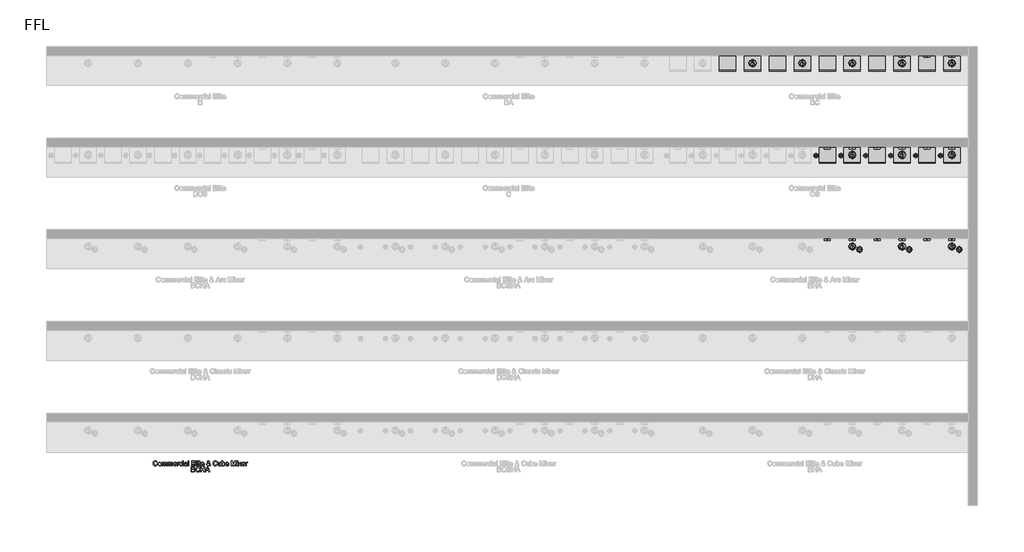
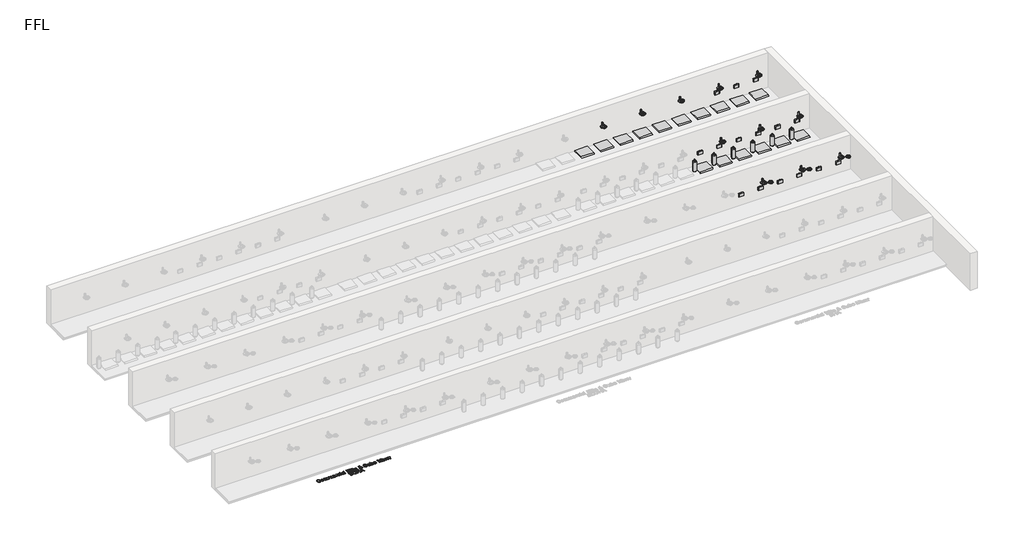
# One storey, part 3 of 13: 51 flow terminals, 1 proxy.
"""IFC4 building model written with IfcOpenShell, lengths in millimetres."""

from ifc_helpers import new_model, si_unit, origin, origin_with_axes, place, context, project, spatial, polyline, outline, extrude, transform, mapped, element, save
from components import flow_terminal_100_people_nickel_19c471c0, flow_terminal_100_people_matte_black_0dc622b1, bcs_and_bc_6de74493, bright_chrome_743c02cf, brushed_chrome_13082571, co2_gas_cylinder_20234e14

model = new_model("IFC4")

# Units and contexts
model_context = context("Model", 3, world=origin())
ifc_project = project(units=[si_unit("LENGTHUNIT", "METRE", prefix="MILLI")], contexts=[model_context])

# Site, building, storey
site = spatial("IfcSite", under=ifc_project)
building = spatial("IfcBuilding", under=site)
storey = spatial("IfcBuildingStorey", under=building, Name="FFL", Elevation=0.0)

# Proxy
placement = place(None, origin())
element("IfcBuildingElementProxy", 1, Name="150mm Arial", ObjectType="150mm Arial", at=placement, inside=storey, context=model_context, shape_type="SweptSolid", body=[
    extrude(outline(polyline([(-3648.5814467, -4463.6981691), (-3630.1199083, -4468.4577845), (-3638.6385381, -4489.9707052), (-3652.0069275, -4505.6873518), (-3669.5670236, -4515.301234), (-3690.6607736, -4518.5058614), (-3712.0745357, -4516.0809816), (-3729.0802448, -4508.8063422), (-3742.1151006, -4496.934347), (-3751.6163025, -4480.7173999), (-3757.4170837, -4461.6518951), (-3759.3506775, -4441.2342268), (-3757.1646799, -4419.6987701), (-3750.6066871, -4401.1020153), (-3740.0192472, -4386.0344071), (-3725.7449083, -4375.0863903), (-3708.8158217, -4368.4202244), (-3690.264139, -4366.1981691), (-3670.022252, -4369.0737701), (-3653.2869756, -4377.700573), (-3640.5811462, -4391.5467268), (-3632.4276006, -4410.0803807), (-3650.889139, -4414.4794191), (-3657.2893794, -4401.0163783), (-3666.0333698, -4391.7811018), (-3677.2292833, -4386.4400561), (-3690.9852929, -4384.6597076), (-3706.8416631, -4386.6338662), (-3719.8675044, -4392.5563422), (-3729.7518193, -4401.8051403), (-3736.1836102, -4413.7582653), (-3740.889139, -4441.1981691), (-3735.3182256, -4473.0010537), (-3728.1968313, -4484.8775561), (-3717.9744756, -4493.3195633), (-3705.7193674, -4498.3631331), (-3692.4997159, -4500.044323), (-3677.0895597, -4497.7546595), (-3664.248514, -4490.8856691), (-3654.553502, -4479.5094672), (-3648.5814467, -4463.6981691)])), origin_with_axes(), (0.0, 0.0, 1.0), 5.0),
    extrude(outline(polyline([(-3611.6583698, -4461.9673999), (-3607.6649804, -4435.8165585), (-3595.6848121, -4417.4361499), (-3580.8831294, -4408.4307412), (-3563.1607736, -4405.4289383), (-3543.7662424, -4409.0842869), (-3528.2749563, -4420.0503326), (-3518.1202087, -4437.4616908), (-3514.7352929, -4460.4529768), (-3516.2316871, -4479.1038182), (-3520.7208698, -4493.3015345), (-3528.0721318, -4503.9340465), (-3538.154764, -4511.8892749), (-3550.1304251, -4516.8517148), (-3563.1607736, -4518.5058614), (-3582.7896799, -4514.8640345), (-3598.2629371, -4503.9385537), (-3608.3095116, -4486.1621114), (-3611.6583698, -4461.9673999)]), holes=[polyline([(-3593.1968313, -4461.9313422), (-3591.0604131, -4478.6395754), (-3584.6511583, -4490.543121), (-3575.0057256, -4497.6690225), (-3563.1607736, -4500.044323), (-3551.3699083, -4497.6555008), (-3541.7425044, -4490.4890345), (-3535.3332496, -4478.4277364), (-3533.1968313, -4461.3544191), (-3535.3467712, -4445.1329648), (-3541.7965909, -4433.3916787), (-3551.4375164, -4426.2657773), (-3563.1607736, -4423.8904768), (-3575.0057256, -4426.2567629), (-3584.6511583, -4433.355621), (-3591.0604131, -4445.2321234), (-3593.1968313, -4461.9313422)])]), origin_with_axes(), (0.0, 0.0, 1.0), 5.0),
    extrude(outline(polyline([(-3493.9660621, -4516.1981691), (-3493.9660621, -4407.7366307), (-3475.5045236, -4407.7366307), (-3475.5045236, -4425.5851883), (-3462.8122159, -4410.9637941), (-3444.7473121, -4405.4289383), (-3434.4798842, -4406.8396956), (-3426.2497159, -4411.0719672), (-3416.0814467, -4426.8832653), (-3401.6763986, -4410.7925201), (-3383.4852929, -4405.4289383), (-3369.6075885, -4407.6600081), (-3359.3446679, -4414.3532172), (-3353.0030212, -4425.6888542), (-3350.889139, -4441.8472076), (-3350.889139, -4516.1981691), (-3369.3506775, -4516.1981691), (-3369.3506775, -4449.7798999), (-3371.0634179, -4434.3652364), (-3377.2653409, -4426.7750922), (-3387.8122159, -4423.8904768), (-3397.8137184, -4425.7384335), (-3405.967264, -4431.2823037), (-3411.3894395, -4440.9006932), (-3413.1968313, -4454.9722076), (-3413.1968313, -4516.1981691), (-3431.6583698, -4516.1981691), (-3431.6583698, -4447.7246114), (-3435.9312063, -4429.839996), (-3441.569728, -4425.3778566), (-3449.9396198, -4423.8904768), (-3463.6054852, -4427.856823), (-3472.6920236, -4439.4673999), (-3475.5045236, -4461.4986499), (-3475.5045236, -4516.1981691), (-3493.9660621, -4516.1981691)])), origin_with_axes(), (0.0, 0.0, 1.0), 5.0),
    extrude(outline(polyline([(-3323.1968313, -4516.1981691), (-3323.1968313, -4407.7366307), (-3304.7352929, -4407.7366307), (-3304.7352929, -4425.5851883), (-3292.0429852, -4410.9637941), (-3273.9780813, -4405.4289383), (-3263.7106534, -4406.8396956), (-3255.4804852, -4411.0719672), (-3245.3122159, -4426.8832653), (-3230.9071679, -4410.7925201), (-3212.7160621, -4405.4289383), (-3198.8383578, -4407.6600081), (-3188.5754371, -4414.3532172), (-3182.2337905, -4425.6888542), (-3180.1199083, -4441.8472076), (-3180.1199083, -4516.1981691), (-3198.5814467, -4516.1981691), (-3198.5814467, -4449.7798999), (-3200.2941871, -4434.3652364), (-3206.4961102, -4426.7750922), (-3217.0429852, -4423.8904768), (-3227.0444876, -4425.7384335), (-3235.1980333, -4431.2823037), (-3240.6202087, -4440.9006932), (-3242.4276006, -4454.9722076), (-3242.4276006, -4516.1981691), (-3260.889139, -4516.1981691), (-3260.889139, -4447.7246114), (-3265.1619756, -4429.839996), (-3270.8004972, -4425.3778566), (-3279.170389, -4423.8904768), (-3292.8362544, -4427.856823), (-3301.9227929, -4439.4673999), (-3304.7352929, -4461.4986499), (-3304.7352929, -4516.1981691), (-3323.1968313, -4516.1981691)])), origin_with_axes(), (0.0, 0.0, 1.0), 5.0),
    extrude(outline(polyline([(-3076.4901006, -4483.8904768), (-3058.389139, -4486.1981691), (-3064.9110741, -4499.8369912), (-3075.3182256, -4510.0323037), (-3089.3762184, -4516.387472), (-3106.8506775, -4518.5058614), (-3128.5123361, -4514.8505129), (-3145.1800044, -4503.8844672), (-3155.8080092, -4486.3198638), (-3159.3506775, -4462.8688422), (-3155.7719515, -4438.6290585), (-3145.0357736, -4420.5010537), (-3128.5934659, -4409.1969672), (-3107.8963506, -4405.4289383), (-3087.8437664, -4409.1879528), (-3071.8206294, -4420.464996), (-3061.3143193, -4438.5569432), (-3057.8122159, -4462.7606691), (-3057.920389, -4467.7366307), (-3140.889139, -4467.7366307), (-3137.693526, -4481.5557412), (-3130.2701486, -4491.714996), (-3119.5565068, -4497.9619912), (-3106.4901006, -4500.044323), (-3088.389139, -4496.1861499), (-3076.4901006, -4483.8904768)]), holes=[polyline([(-3140.889139, -4449.2750922), (-3076.2737544, -4449.2750922), (-3078.7707496, -4439.5214864), (-3083.6655813, -4432.544323), (-3094.4288025, -4426.0539383), (-3107.9684659, -4423.8904768), (-3120.412877, -4425.6167388), (-3130.7028409, -4430.7955249), (-3137.8557857, -4438.8679408), (-3140.889139, -4449.2750922)])]), origin_with_axes(), (0.0, 0.0, 1.0), 5.0),
    extrude(outline(polyline([(-3039.3506775, -4516.1981691), (-3039.3506775, -4407.7366307), (-3023.1968313, -4407.7366307), (-3023.1968313, -4423.7823037), (-3011.7304852, -4408.9986499), (-3000.1920236, -4405.4289383), (-2981.6583698, -4411.1260537), (-2987.8242352, -4427.6765345), (-3000.8050044, -4423.8904768), (-3011.2437063, -4427.5323037), (-3017.8963506, -4437.6284576), (-3020.889139, -4459.1909576), (-3020.889139, -4516.1981691), (-3039.3506775, -4516.1981691)])), origin_with_axes(), (0.0, 0.0, 1.0), 5.0),
    extrude(outline(polyline([(-2900.889139, -4476.9673999), (-2882.4276006, -4479.2750922), (-2887.5748361, -4495.6948638), (-2897.2473121, -4508.1032172), (-2910.5345717, -4515.9052004), (-2926.5261583, -4518.5058614), (-2946.1640789, -4514.8775561), (-2961.5201486, -4503.9926403), (-2971.4315068, -4486.3288783), (-2974.7352929, -4462.3640345), (-2969.092264, -4431.6969672), (-2961.9708698, -4420.1990706), (-2951.8927448, -4411.9914383), (-2939.8359539, -4407.0695633), (-2926.7785621, -4405.4289383), (-2911.179103, -4407.6825441), (-2898.7076486, -4414.4433614), (-2889.7608337, -4425.3508133), (-2884.7352929, -4440.044323), (-2903.1968313, -4442.3520153), (-2911.7605333, -4428.5238903), (-2926.6343313, -4423.8904768), (-2938.5649203, -4426.1711258), (-2948.0345717, -4433.013073), (-2954.2139587, -4444.7859095), (-2956.2737544, -4461.8592268), (-2954.2590309, -4479.1624119), (-2948.2148602, -4490.9758133), (-2938.9164828, -4497.7771956), (-2927.139139, -4500.044323), (-2917.5793434, -4498.6290585), (-2909.7413025, -4494.3832653), (-2904.0396799, -4487.1987701), (-2900.889139, -4476.9673999)])), origin_with_axes(), (0.0, 0.0, 1.0), 5.0),
    extrude(outline(polyline([(-2866.2737544, -4386.9673999), (-2866.2737544, -4368.5058614), (-2847.8122159, -4368.5058614), (-2847.8122159, -4386.9673999), (-2866.2737544, -4386.9673999)])), origin_with_axes(), (0.0, 0.0, 1.0), 5.0),
    extrude(outline(polyline([(-2866.2737544, -4516.1981691), (-2866.2737544, -4407.7366307), (-2847.8122159, -4407.7366307), (-2847.8122159, -4516.1981691), (-2866.2737544, -4516.1981691)])), origin_with_axes(), (0.0, 0.0, 1.0), 5.0),
    extrude(outline(polyline([(-2750.889139, -4502.3520153), (-2768.7917833, -4514.8640345), (-2788.5694275, -4518.5058614), (-2803.9976126, -4516.3153566), (-2815.3783217, -4509.7438422), (-2822.3960501, -4499.7648758), (-2824.7352929, -4487.3520153), (-2821.201639, -4472.7486499), (-2811.9167833, -4462.1476883), (-2798.9901006, -4456.089996), (-2783.0165429, -4453.3135537), (-2750.9973121, -4446.9673999), (-2750.889139, -4442.856823), (-2752.1601727, -4434.6176403), (-2755.9732736, -4429.2270153), (-2764.5009179, -4425.2246114), (-2776.3819275, -4423.8904768), (-2795.0598121, -4427.4421595), (-2803.9660621, -4440.044323), (-2822.4276006, -4437.7366307), (-2814.4408217, -4419.7077845), (-2798.3590909, -4409.1428807), (-2774.0021198, -4405.4289383), (-2751.6283217, -4408.7101883), (-2738.9901006, -4416.949371), (-2733.3290429, -4429.4794191), (-2732.4276006, -4445.6332653), (-2732.4276006, -4468.6020153), (-2731.4901006, -4500.6753326), (-2727.8122159, -4516.1981691), (-2746.2737544, -4516.1981691), (-2750.889139, -4502.3520153)]), holes=[polyline([(-2750.889139, -4465.4289383), (-2780.6727929, -4471.089996), (-2796.5562063, -4474.0827845), (-2803.7497159, -4478.950573), (-2806.2737544, -4486.0539383), (-2800.7749563, -4496.0419191), (-2784.639139, -4500.044323), (-2765.9612544, -4495.6272557), (-2753.9179852, -4484.9361499), (-2750.9973121, -4470.6573037), (-2750.889139, -4465.4289383)])]), origin_with_axes(), (0.0, 0.0, 1.0), 5.0),
    extrude(outline(polyline([(-2707.0429852, -4516.1981691), (-2707.0429852, -4368.5058614), (-2688.5814467, -4368.5058614), (-2688.5814467, -4516.1981691), (-2707.0429852, -4516.1981691)])), origin_with_axes(), (0.0, 0.0, 1.0), 5.0),
    extrude(outline(polyline([(-2600.889139, -4516.1981691), (-2600.889139, -4368.5058614), (-2494.7352929, -4368.5058614), (-2494.7352929, -4386.9673999), (-2582.4276006, -4386.9673999), (-2582.4276006, -4430.8135537), (-2499.3506775, -4430.8135537), (-2499.3506775, -4449.2750922), (-2582.4276006, -4449.2750922), (-2582.4276006, -4497.7366307), (-2492.4276006, -4497.7366307), (-2492.4276006, -4516.1981691), (-2600.889139, -4516.1981691)])), origin_with_axes(), (0.0, 0.0, 1.0), 5.0),
    extrude(outline(polyline([(-2467.0429852, -4516.1981691), (-2467.0429852, -4368.5058614), (-2448.5814467, -4368.5058614), (-2448.5814467, -4516.1981691), (-2467.0429852, -4516.1981691)])), origin_with_axes(), (0.0, 0.0, 1.0), 5.0),
    extrude(outline(polyline([(-2420.889139, -4516.1981691), (-2420.889139, -4407.7366307), (-2402.4276006, -4407.7366307), (-2402.4276006, -4516.1981691), (-2420.889139, -4516.1981691)])), origin_with_axes(), (0.0, 0.0, 1.0), 5.0),
    extrude(outline(polyline([(-2420.889139, -4386.9673999), (-2420.889139, -4368.5058614), (-2402.4276006, -4368.5058614), (-2402.4276006, -4386.9673999), (-2420.889139, -4386.9673999)])), origin_with_axes(), (0.0, 0.0, 1.0), 5.0),
    extrude(outline(polyline([(-2335.5045236, -4500.8015345), (-2333.1968313, -4516.7390345), (-2347.0069275, -4518.5058614), (-2362.4756775, -4515.4409576), (-2370.1920236, -4507.4000922), (-2372.4276006, -4486.450573), (-2372.4276006, -4426.1981691), (-2386.2737544, -4426.1981691), (-2386.2737544, -4407.7366307), (-2372.4276006, -4407.7366307), (-2372.4276006, -4381.3784576), (-2353.9660621, -4370.5250922), (-2353.9660621, -4407.7366307), (-2335.5045236, -4407.7366307), (-2335.5045236, -4426.1981691), (-2353.9660621, -4426.1981691), (-2353.9660621, -4485.9097076), (-2352.9925044, -4495.4289383), (-2349.8374563, -4498.8003326), (-2343.545389, -4500.044323), (-2335.5045236, -4500.8015345)])), origin_with_axes(), (0.0, 0.0, 1.0), 5.0),
    extrude(outline(polyline([(-2241.1054852, -4483.8904768), (-2223.0045236, -4486.1981691), (-2229.5264587, -4499.8369912), (-2239.9336102, -4510.0323037), (-2253.991603, -4516.387472), (-2271.4660621, -4518.5058614), (-2293.1277208, -4514.8505129), (-2309.795389, -4503.8844672), (-2320.4233938, -4486.3198638), (-2323.9660621, -4462.8688422), (-2320.3873361, -4438.6290585), (-2309.6511583, -4420.5010537), (-2293.2088506, -4409.1969672), (-2272.5117352, -4405.4289383), (-2252.459151, -4409.1879528), (-2236.436014, -4420.464996), (-2225.9297039, -4438.5569432), (-2222.4276006, -4462.7606691), (-2222.5357736, -4467.7366307), (-2305.5045236, -4467.7366307), (-2302.3089107, -4481.5557412), (-2294.8855333, -4491.714996), (-2284.1718914, -4497.9619912), (-2271.1054852, -4500.044323), (-2253.0045236, -4496.1861499), (-2241.1054852, -4483.8904768)]), holes=[polyline([(-2305.5045236, -4449.2750922), (-2240.889139, -4449.2750922), (-2243.3861342, -4439.5214864), (-2248.2809659, -4432.544323), (-2259.0441871, -4426.0539383), (-2272.5838506, -4423.8904768), (-2285.0282616, -4425.6167388), (-2295.3182256, -4430.7955249), (-2302.4711703, -4438.8679408), (-2305.5045236, -4449.2750922)])]), origin_with_axes(), (0.0, 0.0, 1.0), 5.0),
    extrude(outline(polyline([(-2061.5742352, -4497.9529768), (-2081.1535621, -4513.3676403), (-2104.0501967, -4518.5058614), (-2124.4227929, -4514.7017749), (-2140.107889, -4503.2895153), (-2148.1938265, -4490.1555008), (-2150.889139, -4475.5611499), (-2148.7211703, -4462.6254528), (-2142.217264, -4451.0058614), (-2131.4044635, -4440.7113903), (-2116.3098121, -4431.7510537), (-2129.2004371, -4413.0731691), (-2132.4276006, -4399.2270153), (-2129.8855333, -4386.7600682), (-2122.2593313, -4376.0419191), (-2110.7839708, -4368.6591066), (-2096.6944275, -4366.1981691), (-2083.2899804, -4368.5509335), (-2072.5718313, -4375.6092268), (-2065.5405813, -4385.9667989), (-2063.1968313, -4398.2173999), (-2064.9321078, -4408.5028566), (-2070.1379371, -4418.013073), (-2090.9612544, -4434.7077845), (-2064.2425044, -4467.9890345), (-2056.2737544, -4447.544323), (-2037.8122159, -4451.5467268), (-2050.8651006, -4481.9433614), (-2028.5814467, -4504.2991307), (-2042.4276006, -4518.5058614), (-2061.5742352, -4497.9529768)]), holes=[polyline([(-2100.3001967, -4423.0611499), (-2085.1199083, -4411.6128326), (-2081.6583698, -4400.7414383), (-2086.2196679, -4389.1488903), (-2097.6319275, -4384.6597076), (-2109.2965909, -4389.1128326), (-2113.9660621, -4399.9842268), (-2112.3795236, -4406.7450441), (-2107.5838506, -4414.263073), (-2100.3001967, -4423.0611499)]), polyline([(-2073.9420236, -4484.6476883), (-2106.8987544, -4443.5058614), (-2127.1812063, -4458.9746114), (-2132.4276006, -4473.1092268), (-2130.6337304, -4481.8171595), (-2125.2521198, -4490.8496114), (-2116.5802448, -4497.7456451), (-2104.9155813, -4500.044323), (-2087.9504371, -4495.7534576), (-2073.9420236, -4484.6476883)])]), origin_with_axes(), (0.0, 0.0, 1.0), 5.0),
    extrude(outline(polyline([(-1846.2737544, -4463.6981691), (-1827.8122159, -4468.4577845), (-1836.3308458, -4489.9707052), (-1849.6992352, -4505.6873518), (-1867.2593313, -4515.301234), (-1888.3530813, -4518.5058614), (-1909.7668434, -4516.0809816), (-1926.7725525, -4508.8063422), (-1939.8074083, -4496.934347), (-1949.3086102, -4480.7173999), (-1955.1093914, -4461.6518951), (-1957.0429852, -4441.2342268), (-1954.8569876, -4419.6987701), (-1948.2989948, -4401.1020153), (-1937.7115549, -4386.0344071), (-1923.4372159, -4375.0863903), (-1906.5081294, -4368.4202244), (-1887.9564467, -4366.1981691), (-1867.7145597, -4369.0737701), (-1850.9792833, -4377.700573), (-1838.2734539, -4391.5467268), (-1830.1199083, -4410.0803807), (-1848.5814467, -4414.4794191), (-1854.9816871, -4401.0163783), (-1863.7256775, -4391.7811018), (-1874.9215909, -4386.4400561), (-1888.6776006, -4384.6597076), (-1904.5339708, -4386.6338662), (-1917.5598121, -4392.5563422), (-1927.444127, -4401.8051403), (-1933.8759179, -4413.7582653), (-1938.5814467, -4441.1981691), (-1933.0105333, -4473.0010537), (-1925.889139, -4484.8775561), (-1915.6667833, -4493.3195633), (-1903.4116751, -4498.3631331), (-1890.1920236, -4500.044323), (-1874.7818674, -4497.7546595), (-1861.9408217, -4490.8856691), (-1852.2458097, -4479.5094672), (-1846.2737544, -4463.6981691)])), origin_with_axes(), (0.0, 0.0, 1.0), 5.0),
    extrude(outline(polyline([(-1735.5045236, -4516.1981691), (-1735.5045236, -4497.5563422), (-1749.9636583, -4513.2684816), (-1768.8218313, -4518.5058614), (-1786.1836102, -4514.8279768), (-1798.154764, -4505.5972076), (-1803.6535621, -4492.0034576), (-1804.7352929, -4474.839996), (-1804.7352929, -4407.7366307), (-1786.2737544, -4407.7366307), (-1786.2737544, -4466.1500922), (-1785.1559659, -4484.9722076), (-1777.8542833, -4496.0238903), (-1764.0982736, -4500.044323), (-1748.6836102, -4495.933746), (-1738.4973121, -4484.7378326), (-1735.5045236, -4464.1669191), (-1735.5045236, -4407.7366307), (-1717.0429852, -4407.7366307), (-1717.0429852, -4516.1981691), (-1735.5045236, -4516.1981691)])), origin_with_axes(), (0.0, 0.0, 1.0), 5.0),
    extrude(outline(polyline([(-1673.1968313, -4516.1981691), (-1691.6583698, -4516.1981691), (-1691.6583698, -4368.5058614), (-1673.1968313, -4368.5058614), (-1673.1968313, -4423.277496), (-1660.2701486, -4409.8910778), (-1644.2064467, -4405.4289383), (-1625.7088506, -4409.449371), (-1611.357889, -4420.7534576), (-1602.5417833, -4438.3315826), (-1599.3506775, -4460.3448037), (-1602.6544635, -4484.9902364), (-1612.5658217, -4503.325573), (-1627.1105934, -4514.7107893), (-1644.3146198, -4518.5058614), (-1660.7298842, -4513.6110297), (-1673.1968313, -4498.9265345), (-1673.1968313, -4516.1981691)]), holes=[polyline([(-1673.1968313, -4461.2101883), (-1671.9348121, -4476.606823), (-1668.1487544, -4487.027496), (-1658.4762784, -4496.7901162), (-1645.9011583, -4500.044323), (-1635.2461102, -4497.6464864), (-1626.1415429, -4490.4529768), (-1619.8945477, -4478.5088662), (-1617.8122159, -4461.8592268), (-1619.8089107, -4444.966198), (-1625.7989948, -4433.1573037), (-1634.6196078, -4426.2071835), (-1645.107889, -4423.8904768), (-1655.7629371, -4426.2883133), (-1664.8675044, -4433.481823), (-1671.1144996, -4445.2095874), (-1673.1968313, -4461.2101883)])]), origin_with_axes(), (0.0, 0.0, 1.0), 5.0),
    extrude(outline(polyline([(-1502.6439467, -4483.8904768), (-1484.5429852, -4486.1981691), (-1491.0649203, -4499.8369912), (-1501.4720717, -4510.0323037), (-1515.5300645, -4516.387472), (-1533.0045236, -4518.5058614), (-1554.6661823, -4514.8505129), (-1571.3338506, -4503.8844672), (-1581.9618554, -4486.3198638), (-1585.5045236, -4462.8688422), (-1581.9257977, -4438.6290585), (-1571.1896198, -4420.5010537), (-1554.7473121, -4409.1969672), (-1534.0501967, -4405.4289383), (-1513.9976126, -4409.1879528), (-1497.9744756, -4420.464996), (-1487.4681655, -4438.5569432), (-1483.9660621, -4462.7606691), (-1484.0742352, -4467.7366307), (-1567.0429852, -4467.7366307), (-1563.8473722, -4481.5557412), (-1556.4239948, -4491.714996), (-1545.710353, -4497.9619912), (-1532.6439467, -4500.044323), (-1514.5429852, -4496.1861499), (-1502.6439467, -4483.8904768)]), holes=[polyline([(-1567.0429852, -4449.2750922), (-1502.4276006, -4449.2750922), (-1504.9245958, -4439.5214864), (-1509.8194275, -4432.544323), (-1520.5826486, -4426.0539383), (-1534.1223121, -4423.8904768), (-1546.5667232, -4425.6167388), (-1556.8566871, -4430.7955249), (-1564.0096318, -4438.8679408), (-1567.0429852, -4449.2750922)])]), origin_with_axes(), (0.0, 0.0, 1.0), 5.0),
    extrude(outline(polyline([(-1405.5045236, -4516.1981691), (-1405.5045236, -4368.5058614), (-1373.7376967, -4368.5058614), (-1343.5213506, -4472.6044191), (-1337.4276006, -4494.3472076), (-1330.8290429, -4470.8015345), (-1301.1175044, -4368.5058614), (-1269.3506775, -4368.5058614), (-1269.3506775, -4516.1981691), (-1287.8122159, -4516.1981691), (-1287.8122159, -4386.9673999), (-1324.9155813, -4516.1981691), (-1349.9396198, -4516.1981691), (-1387.0429852, -4386.9673999), (-1387.0429852, -4516.1981691), (-1405.5045236, -4516.1981691)])), origin_with_axes(), (0.0, 0.0, 1.0), 5.0),
    extrude(outline(polyline([(-1239.3506775, -4516.1981691), (-1239.3506775, -4407.7366307), (-1220.889139, -4407.7366307), (-1220.889139, -4516.1981691), (-1239.3506775, -4516.1981691)])), origin_with_axes(), (0.0, 0.0, 1.0), 5.0),
    extrude(outline(polyline([(-1239.3506775, -4386.9673999), (-1239.3506775, -4368.5058614), (-1220.889139, -4368.5058614), (-1220.889139, -4386.9673999), (-1239.3506775, -4386.9673999)])), origin_with_axes(), (0.0, 0.0, 1.0), 5.0),
    extrude(outline(polyline([(-1204.7352929, -4516.1981691), (-1165.2881775, -4461.6789383), (-1202.4276006, -4407.7366307), (-1180.2160621, -4407.7366307), (-1162.295389, -4433.6981691), (-1153.9300044, -4445.9577845), (-1146.6824083, -4435.933746), (-1126.2737544, -4407.7366307), (-1104.0622159, -4407.7366307), (-1143.076639, -4461.6789383), (-1105.5045236, -4516.1981691), (-1127.7160621, -4516.1981691), (-1150.3242352, -4483.4217268), (-1154.4708698, -4477.4361499), (-1182.5237544, -4516.1981691), (-1204.7352929, -4516.1981691)])), origin_with_axes(), (0.0, 0.0, 1.0), 5.0),
    extrude(outline(polyline([(-1013.4131775, -4483.8904768), (-995.3122159, -4486.1981691), (-1001.834151, -4499.8369912), (-1012.2413025, -4510.0323037), (-1026.2992953, -4516.387472), (-1043.7737544, -4518.5058614), (-1065.4354131, -4514.8505129), (-1082.1030813, -4503.8844672), (-1092.7310861, -4486.3198638), (-1096.2737544, -4462.8688422), (-1092.6950284, -4438.6290585), (-1081.9588506, -4420.5010537), (-1065.5165429, -4409.1969672), (-1044.8194275, -4405.4289383), (-1024.7668434, -4409.1879528), (-1008.7437063, -4420.464996), (-998.2373962, -4438.5569432), (-994.7352929, -4462.7606691), (-994.8434659, -4467.7366307), (-1077.8122159, -4467.7366307), (-1074.616603, -4481.5557412), (-1067.1932256, -4491.714996), (-1056.4795837, -4497.9619912), (-1043.4131775, -4500.044323), (-1025.3122159, -4496.1861499), (-1013.4131775, -4483.8904768)]), holes=[polyline([(-1077.8122159, -4449.2750922), (-1013.1968313, -4449.2750922), (-1015.6938265, -4439.5214864), (-1020.5886583, -4432.544323), (-1031.3518794, -4426.0539383), (-1044.8915429, -4423.8904768), (-1057.3359539, -4425.6167388), (-1067.6259179, -4430.7955249), (-1074.7788626, -4438.8679408), (-1077.8122159, -4449.2750922)])]), origin_with_axes(), (0.0, 0.0, 1.0), 5.0),
    extrude(outline(polyline([(-976.2737544, -4516.1981691), (-976.2737544, -4407.7366307), (-960.1199083, -4407.7366307), (-960.1199083, -4423.7823037), (-948.6535621, -4408.9986499), (-937.1151006, -4405.4289383), (-918.5814467, -4411.1260537), (-924.7473121, -4427.6765345), (-937.7280813, -4423.8904768), (-948.1667833, -4427.5323037), (-954.8194275, -4437.6284576), (-957.8122159, -4459.1909576), (-957.8122159, -4516.1981691), (-976.2737544, -4516.1981691)])), origin_with_axes(), (0.0, 0.0, 1.0), 5.0),
    extrude(outline(polyline([(-2612.4276006, -4698.5058614), (-2612.4276006, -4550.8135537), (-2556.0694275, -4550.8135537), (-2528.467264, -4555.1585057), (-2519.1914227, -4560.6708254), (-2512.1691871, -4568.5178807), (-2506.2737544, -4587.4121114), (-2511.2316871, -4604.6657172), (-2526.2136583, -4617.7366307), (-2515.7524203, -4623.199371), (-2508.0225525, -4631.5106691), (-2503.2494155, -4642.1206451), (-2501.6583698, -4654.4794191), (-2506.0033217, -4674.3291787), (-2516.7665429, -4688.4637941), (-2532.8302448, -4695.9637941), (-2556.5021198, -4698.5058614), (-2612.4276006, -4698.5058614)]), holes=[polyline([(-2593.9660621, -4610.8135537), (-2560.2521198, -4610.8135537), (-2540.5646198, -4609.2270153), (-2528.7196679, -4602.3940826), (-2524.7352929, -4590.3688422), (-2528.4492352, -4578.325573), (-2539.0862544, -4571.2041787), (-2562.8122159, -4569.2750922), (-2593.9660621, -4569.2750922), (-2593.9660621, -4610.8135537)]), polyline([(-2593.9660621, -4680.044323), (-2556.1054852, -4680.044323), (-2542.4035621, -4679.3231691), (-2530.811014, -4675.3027364), (-2523.1307256, -4667.0996114), (-2520.1199083, -4654.6597076), (-2523.6535621, -4640.308746), (-2535.1018794, -4631.7450441), (-2557.9083698, -4629.2750922), (-2593.9660621, -4629.2750922), (-2593.9660621, -4680.044323)])]), origin_with_axes(), (0.0, 0.0, 1.0), 5.0),
    extrude(outline(polyline([(-2372.4276006, -4646.0058614), (-2353.9660621, -4650.7654768), (-2362.4846919, -4672.2783975), (-2375.8530813, -4687.9950441), (-2393.4131775, -4697.6089263), (-2414.5069275, -4700.8135537), (-2435.9206895, -4698.3886739), (-2452.9263986, -4691.1140345), (-2465.9612544, -4679.2420393), (-2475.4624563, -4663.0250922), (-2481.2632376, -4643.9595874), (-2483.1968313, -4623.5419191), (-2481.0108337, -4602.0064624), (-2474.4528409, -4583.4097076), (-2463.865401, -4568.3420994), (-2449.5910621, -4557.3940826), (-2432.6619756, -4550.7279167), (-2414.1102929, -4548.5058614), (-2393.8684059, -4551.3814624), (-2377.1331294, -4560.0082653), (-2364.4273001, -4573.8544191), (-2356.2737544, -4592.388073), (-2374.7352929, -4596.7871114), (-2381.1355333, -4583.3240706), (-2389.8795236, -4574.0887941), (-2401.0754371, -4568.7477484), (-2414.8314467, -4566.9673999), (-2430.6878169, -4568.9415585), (-2443.7136583, -4574.8640345), (-2453.5979732, -4584.1128326), (-2460.029764, -4596.0659576), (-2464.7352929, -4623.5058614), (-2459.1643794, -4655.308746), (-2452.0429852, -4667.1852484), (-2441.8206294, -4675.6272557), (-2429.5655212, -4680.6708254), (-2416.3458698, -4682.3520153), (-2400.9357135, -4680.0623518), (-2388.0946679, -4673.1933614), (-2378.3996559, -4661.8171595), (-2372.4276006, -4646.0058614)])), origin_with_axes(), (0.0, 0.0, 1.0), 5.0),
    extrude(outline(polyline([(-2328.5814467, -4698.5058614), (-2328.5814467, -4550.8135537), (-2310.1199083, -4550.8135537), (-2310.1199083, -4610.8135537), (-2231.6583698, -4610.8135537), (-2231.6583698, -4550.8135537), (-2213.1968313, -4550.8135537), (-2213.1968313, -4698.5058614), (-2231.6583698, -4698.5058614), (-2231.6583698, -4629.2750922), (-2310.1199083, -4629.2750922), (-2310.1199083, -4698.5058614), (-2328.5814467, -4698.5058614)])), origin_with_axes(), (0.0, 0.0, 1.0), 5.0),
    extrude(outline(polyline([(-2198.0886583, -4698.5058614), (-2139.1343313, -4550.8135537), (-2123.4131775, -4550.8135537), (-2064.4588506, -4698.5058614), (-2083.9660621, -4698.5058614), (-2100.8771198, -4652.3520153), (-2161.7064467, -4652.3520153), (-2178.5814467, -4698.5058614), (-2198.0886583, -4698.5058614)]), holes=[polyline([(-2154.9276006, -4633.8904768), (-2107.6199083, -4633.8904768), (-2120.9251967, -4597.5803807), (-2131.2737544, -4569.2750922), (-2140.4684659, -4594.4073037), (-2154.9276006, -4633.8904768)])]), origin_with_axes(), (0.0, 0.0, 1.0), 5.0),
])

# Flow terminals
flow_terminal_100_people_nickel_shape = flow_terminal_100_people_nickel_19c471c0(model_context)
element("IfcFlowTerminal", 2, ObjectType="PlumFixt_Zip Commercial_Elite_CS : 100 People - Gold", at=placement, inside=storey, context=model_context, shape_type="MappedRepresentation", body=[
    mapped(flow_terminal_100_people_nickel_shape, transform((16529.2647071, 4822.7393304, 0.0), x_axis=(1.0, 0.0, 0.0), y_axis=(0.0, 1.0, 0.0), z_axis=(0.0, 0.0, 1.0))),
])
flow_terminal_100_people_matte_black_shape = flow_terminal_100_people_matte_black_0dc622b1(model_context)
element("IfcFlowTerminal", 3, ObjectType="PlumFixt_Zip Commercial_Elite_Arc Mixer_BHA : 100 People - Gold", at=placement, inside=storey, context=model_context, shape_type="MappedRepresentation", body=[
    mapped(flow_terminal_100_people_matte_black_shape, transform((16529.2647071, 2062.7393304, 0.0), x_axis=(1.0, 0.0, 0.0), y_axis=(0.0, 1.0, 0.0), z_axis=(0.0, 0.0, 1.0))),
])
element("IfcFlowTerminal", 4, ObjectType="PlumFixt_Zip Commercial_Elite_CS : 100 People - Gunmetal", at=placement, inside=storey, context=model_context, shape_type="MappedRepresentation", body=[
    mapped(flow_terminal_100_people_nickel_shape, transform((17279.2647071, 4822.7393304, 0.0), x_axis=(1.0, 0.0, 0.0), y_axis=(0.0, 1.0, 0.0), z_axis=(0.0, 0.0, 1.0))),
])
element("IfcFlowTerminal", 5, ObjectType="PlumFixt_Zip Commercial_Elite_Arc Mixer_BHA : 100 People - Gunmetal", at=placement, inside=storey, context=model_context, shape_type="MappedRepresentation", body=[
    mapped(flow_terminal_100_people_matte_black_shape, transform((17279.2647071, 2062.7393304, 0.0), x_axis=(1.0, 0.0, 0.0), y_axis=(0.0, 1.0, 0.0), z_axis=(0.0, 0.0, 1.0))),
])
element("IfcFlowTerminal", 6, ObjectType="PlumFixt_Zip Commercial_Elite_CS : 100 People - Matte Black", at=placement, inside=storey, context=model_context, shape_type="MappedRepresentation", body=[
    mapped(flow_terminal_100_people_nickel_shape, transform((18029.2647071, 4822.7393304, 0.0), x_axis=(1.0, 0.0, 0.0), y_axis=(0.0, 1.0, 0.0), z_axis=(0.0, 0.0, 1.0))),
])
element("IfcFlowTerminal", 7, ObjectType="PlumFixt_Zip Commercial_Elite_Arc Mixer_BHA : 100 People - Matte Black", at=placement, inside=storey, context=model_context, shape_type="MappedRepresentation", body=[
    mapped(flow_terminal_100_people_matte_black_shape, transform((18029.2647071, 2062.7393304, 0.0), x_axis=(1.0, 0.0, 0.0), y_axis=(0.0, 1.0, 0.0), z_axis=(0.0, 0.0, 1.0))),
])
element("IfcFlowTerminal", 8, ObjectType="PlumFixt_Zip Commercial_Elite_BC : 100 People - Nickel", at=placement, inside=storey, context=model_context, shape_type="MappedRepresentation", body=[
    mapped(flow_terminal_100_people_nickel_shape, transform((18779.2647071, 7582.7393304, 0.0), x_axis=(1.0, 0.0, 0.0), y_axis=(0.0, 1.0, 0.0), z_axis=(0.0, 0.0, 1.0))),
])
element("IfcFlowTerminal", 9, ObjectType="PlumFixt_Zip Commercial_Elite_CS : 100 People - Nickel", at=placement, inside=storey, context=model_context, shape_type="MappedRepresentation", body=[
    mapped(flow_terminal_100_people_nickel_shape, transform((18779.2647071, 4822.7393304, 0.0), x_axis=(1.0, 0.0, 0.0), y_axis=(0.0, 1.0, 0.0), z_axis=(0.0, 0.0, 1.0))),
])
element("IfcFlowTerminal", 10, ObjectType="PlumFixt_Zip Commercial_Elite_Arc Mixer_BHA : 100 People - Nickel", at=placement, inside=storey, context=model_context, shape_type="MappedRepresentation", body=[
    mapped(flow_terminal_100_people_matte_black_shape, transform((18779.2647071, 2062.7393304, 0.0), x_axis=(1.0, 0.0, 0.0), y_axis=(0.0, 1.0, 0.0), z_axis=(0.0, 0.0, 1.0))),
])
element("IfcFlowTerminal", 11, ObjectType="PlumFixt_Zip Commercial_Elite_BC : 100 People - Platinum", at=placement, inside=storey, context=model_context, shape_type="MappedRepresentation", body=[
    mapped(flow_terminal_100_people_nickel_shape, transform((19529.2647071, 7582.7393304, 0.0), x_axis=(1.0, 0.0, 0.0), y_axis=(0.0, 1.0, 0.0), z_axis=(0.0, 0.0, 1.0))),
])
element("IfcFlowTerminal", 12, ObjectType="PlumFixt_Zip Commercial_Elite_CS : 100 People - Platinum", at=placement, inside=storey, context=model_context, shape_type="MappedRepresentation", body=[
    mapped(flow_terminal_100_people_nickel_shape, transform((19529.2647071, 4822.7393304, 0.0), x_axis=(1.0, 0.0, 0.0), y_axis=(0.0, 1.0, 0.0), z_axis=(0.0, 0.0, 1.0))),
])
element("IfcFlowTerminal", 13, ObjectType="PlumFixt_Zip Commercial_Elite_Arc Mixer_BHA : 100 People - Platinum", at=placement, inside=storey, context=model_context, shape_type="MappedRepresentation", body=[
    mapped(flow_terminal_100_people_matte_black_shape, transform((19529.2647071, 2062.7393304, 0.0), x_axis=(1.0, 0.0, 0.0), y_axis=(0.0, 1.0, 0.0), z_axis=(0.0, 0.0, 1.0))),
])
element("IfcFlowTerminal", 14, ObjectType="PlumFixt_Zip Commercial_Elite_BC : 100 People - Rose Gold", at=placement, inside=storey, context=model_context, shape_type="MappedRepresentation", body=[
    mapped(flow_terminal_100_people_nickel_shape, transform((20279.2647071, 7582.7393304, 0.0), x_axis=(1.0, 0.0, 0.0), y_axis=(0.0, 1.0, 0.0), z_axis=(0.0, 0.0, 1.0))),
])
element("IfcFlowTerminal", 15, ObjectType="PlumFixt_Zip Commercial_Elite_CS : 100 People - Rose Gold", at=placement, inside=storey, context=model_context, shape_type="MappedRepresentation", body=[
    mapped(flow_terminal_100_people_nickel_shape, transform((20279.2647071, 4822.7393304, 0.0), x_axis=(1.0, 0.0, 0.0), y_axis=(0.0, 1.0, 0.0), z_axis=(0.0, 0.0, 1.0))),
])
element("IfcFlowTerminal", 16, ObjectType="PlumFixt_Zip Commercial_Elite_Arc Mixer_BHA : 100 People - Rose Gold", at=placement, inside=storey, context=model_context, shape_type="MappedRepresentation", body=[
    mapped(flow_terminal_100_people_matte_black_shape, transform((20279.2647071, 2062.7393304, 0.0), x_axis=(1.0, 0.0, 0.0), y_axis=(0.0, 1.0, 0.0), z_axis=(0.0, 0.0, 1.0))),
])
bcs_and_bc_shape = bcs_and_bc_6de74493(model_context)
element("IfcFlowTerminal", 17, ObjectType="z_PlumFixt_Zip_Vent Tray : BCS and BC", at=placement, inside=storey, context=model_context, shape_type="MappedRepresentation", body=[
    mapped(bcs_and_bc_shape, transform((13529.2647071, 7705.7393304, 100.0), x_axis=(1.0, 0.0, 0.0), y_axis=(0.0, 1.0, 0.0), z_axis=(0.0, 0.0, 1.0))),
])
element("IfcFlowTerminal", 18, ObjectType="z_PlumFixt_Zip_Vent Tray : BCS and BC", at=placement, inside=storey, context=model_context, shape_type="MappedRepresentation", body=[
    mapped(bcs_and_bc_shape, transform((14279.2647071, 7705.7393304, 100.0), x_axis=(1.0, 0.0, 0.0), y_axis=(0.0, 1.0, 0.0), z_axis=(0.0, 0.0, 1.0))),
])
element("IfcFlowTerminal", 19, ObjectType="z_PlumFixt_Zip_Vent Tray : BCS and BC", at=placement, inside=storey, context=model_context, shape_type="MappedRepresentation", body=[
    mapped(bcs_and_bc_shape, transform((15029.2647071, 7705.7393304, 100.0), x_axis=(1.0, 0.0, 0.0), y_axis=(0.0, 1.0, 0.0), z_axis=(0.0, 0.0, 1.0))),
])
element("IfcFlowTerminal", 20, ObjectType="z_PlumFixt_Zip_Vent Tray : BCS and BC", at=placement, inside=storey, context=model_context, shape_type="MappedRepresentation", body=[
    mapped(bcs_and_bc_shape, transform((15779.2647071, 7705.7393304, 100.0), x_axis=(1.0, 0.0, 0.0), y_axis=(0.0, 1.0, 0.0), z_axis=(0.0, 0.0, 1.0))),
])
element("IfcFlowTerminal", 21, ObjectType="z_PlumFixt_Zip_Vent Tray : BCS and BC", at=placement, inside=storey, context=model_context, shape_type="MappedRepresentation", body=[
    mapped(bcs_and_bc_shape, transform((16529.2647071, 7705.7393304, 100.0), x_axis=(1.0, 0.0, 0.0), y_axis=(0.0, 1.0, 0.0), z_axis=(0.0, 0.0, 1.0))),
])
element("IfcFlowTerminal", 22, ObjectType="z_PlumFixt_Zip_Vent Tray : BCS and BC", at=placement, inside=storey, context=model_context, shape_type="MappedRepresentation", body=[
    mapped(bcs_and_bc_shape, transform((17279.2647071, 7705.7393304, 100.0), x_axis=(1.0, 0.0, 0.0), y_axis=(0.0, 1.0, 0.0), z_axis=(0.0, 0.0, 1.0))),
])
element("IfcFlowTerminal", 23, ObjectType="z_PlumFixt_Zip_Vent Tray : BCS and BC", at=placement, inside=storey, context=model_context, shape_type="MappedRepresentation", body=[
    mapped(bcs_and_bc_shape, transform((18029.2647071, 7705.7393304, 100.0), x_axis=(1.0, 0.0, 0.0), y_axis=(0.0, 1.0, 0.0), z_axis=(0.0, 0.0, 1.0))),
])
element("IfcFlowTerminal", 24, ObjectType="z_PlumFixt_Zip_Vent Tray : BCS and BC", at=placement, inside=storey, context=model_context, shape_type="MappedRepresentation", body=[
    mapped(bcs_and_bc_shape, transform((18779.2647071, 7705.7393304, 100.0), x_axis=(1.0, 0.0, 0.0), y_axis=(0.0, 1.0, 0.0), z_axis=(0.0, 0.0, 1.0))),
])
element("IfcFlowTerminal", 25, ObjectType="z_PlumFixt_Zip_Vent Tray : BCS and BC", at=placement, inside=storey, context=model_context, shape_type="MappedRepresentation", body=[
    mapped(bcs_and_bc_shape, transform((19529.2647071, 7705.7393304, 100.0), x_axis=(1.0, 0.0, 0.0), y_axis=(0.0, 1.0, 0.0), z_axis=(0.0, 0.0, 1.0))),
])
element("IfcFlowTerminal", 26, ObjectType="z_PlumFixt_Zip_Vent Tray : BCS and BC", at=placement, inside=storey, context=model_context, shape_type="MappedRepresentation", body=[
    mapped(bcs_and_bc_shape, transform((20279.2647071, 7705.7393304, 100.0), x_axis=(1.0, 0.0, 0.0), y_axis=(0.0, 1.0, 0.0), z_axis=(0.0, 0.0, 1.0))),
])
bright_chrome_shape = bright_chrome_743c02cf(model_context)
element("IfcFlowTerminal", 27, ObjectType="z_PlumFixt_Zip_Font : Bright Chrome", at=placement, inside=storey, context=model_context, shape_type="MappedRepresentation", body=[
    mapped(bright_chrome_shape, transform((17499.229339, 1991.2393304, 900.0), x_axis=(1.0000000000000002, 0.0, 0.0), y_axis=(0.0, 1.0000000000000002, 0.0), z_axis=(0.0, 0.0, 1.0))),
])
element("IfcFlowTerminal", 28, ObjectType="z_PlumFixt_Zip_Font : Bright Chrome", at=placement, inside=storey, context=model_context, shape_type="MappedRepresentation", body=[
    mapped(bright_chrome_shape, transform((18999.229339, 1991.2393304, 900.0), x_axis=(1.0000000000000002, 0.0, 0.0), y_axis=(0.0, 1.0000000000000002, 0.0), z_axis=(0.0, 0.0, 1.0))),
])
element("IfcFlowTerminal", 29, ObjectType="z_PlumFixt_Zip_Font : Bright Chrome", at=placement, inside=storey, context=model_context, shape_type="MappedRepresentation", body=[
    mapped(bright_chrome_shape, transform((20499.229339, 1991.2393304, 900.0), x_axis=(1.0000000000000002, 0.0, 0.0), y_axis=(0.0, 1.0000000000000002, 0.0), z_axis=(0.0, 0.0, 1.0))),
])
brushed_chrome_shape = brushed_chrome_13082571(model_context)
element("IfcFlowTerminal", 30, ObjectType="z_PlumFixt_Zip_Font and Tap Riser : Brushed Nickel", at=placement, inside=storey, context=model_context, shape_type="MappedRepresentation", body=[
    mapped(brushed_chrome_shape, transform((14279.2647071, 7597.9893304, 900.0), x_axis=(1.0000000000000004, 0.0, 0.0), y_axis=(0.0, 1.0000000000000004, 0.0), z_axis=(0.0, 0.0, 1.0))),
])
co2_gas_cylinder_shape = co2_gas_cylinder_20234e14(model_context)
element("IfcFlowTerminal", 31, ObjectType="z_PlumFixt_Zip_CO2 Gas Cylinder : CO2 Gas Cylinder", at=placement, inside=storey, context=model_context, shape_type="MappedRepresentation", body=[
    mapped(co2_gas_cylinder_shape, transform((16191.2647071, 4743.2393304, 100.0), x_axis=(-1.0, 0.0, 0.0), y_axis=(0.0, -1.0, 0.0), z_axis=(0.0, 0.0, 1.0))),
])
element("IfcFlowTerminal", 32, ObjectType="z_PlumFixt_Zip_CO2 Gas Cylinder : CO2 Gas Cylinder", at=placement, inside=storey, context=model_context, shape_type="MappedRepresentation", body=[
    mapped(co2_gas_cylinder_shape, transform((16941.2647071, 4743.2393304, 100.0), x_axis=(-1.0, 0.0, 0.0), y_axis=(0.0, -1.0, 0.0), z_axis=(0.0, 0.0, 1.0))),
])
element("IfcFlowTerminal", 33, ObjectType="z_PlumFixt_Zip_CO2 Gas Cylinder : CO2 Gas Cylinder", at=placement, inside=storey, context=model_context, shape_type="MappedRepresentation", body=[
    mapped(co2_gas_cylinder_shape, transform((17691.2647071, 4743.2393304, 100.0), x_axis=(-1.0, 0.0, 0.0), y_axis=(0.0, -1.0, 0.0), z_axis=(0.0, 0.0, 1.0))),
])
element("IfcFlowTerminal", 34, ObjectType="z_PlumFixt_Zip_CO2 Gas Cylinder : CO2 Gas Cylinder", at=placement, inside=storey, context=model_context, shape_type="MappedRepresentation", body=[
    mapped(co2_gas_cylinder_shape, transform((18441.2647071, 4743.2393304, 100.0), x_axis=(-1.0, 0.0, 0.0), y_axis=(0.0, -1.0, 0.0), z_axis=(0.0, 0.0, 1.0))),
])
element("IfcFlowTerminal", 35, ObjectType="z_PlumFixt_Zip_CO2 Gas Cylinder : CO2 Gas Cylinder", at=placement, inside=storey, context=model_context, shape_type="MappedRepresentation", body=[
    mapped(co2_gas_cylinder_shape, transform((19191.2647071, 4743.2393304, 100.0), x_axis=(-1.0, 0.0, 0.0), y_axis=(0.0, -1.0, 0.0), z_axis=(0.0, 0.0, 1.0))),
])
element("IfcFlowTerminal", 36, ObjectType="z_PlumFixt_Zip_CO2 Gas Cylinder : CO2 Gas Cylinder", at=placement, inside=storey, context=model_context, shape_type="MappedRepresentation", body=[
    mapped(co2_gas_cylinder_shape, transform((19941.2647071, 4743.2393304, 100.0), x_axis=(-1.0, 0.0, 0.0), y_axis=(0.0, -1.0, 0.0), z_axis=(0.0, 0.0, 1.0))),
])
element("IfcFlowTerminal", 37, ObjectType="z_PlumFixt_Zip_Vent Tray : CS and C", at=placement, inside=storey, context=model_context, shape_type="MappedRepresentation", body=[
    mapped(bcs_and_bc_shape, transform((16529.2647071, 4945.7393304, 100.0), x_axis=(1.0, 0.0, 0.0), y_axis=(0.0, 1.0, 0.0), z_axis=(0.0, 0.0, 1.0))),
])
element("IfcFlowTerminal", 38, ObjectType="z_PlumFixt_Zip_Vent Tray : CS and C", at=placement, inside=storey, context=model_context, shape_type="MappedRepresentation", body=[
    mapped(bcs_and_bc_shape, transform((17279.2647071, 4945.7393304, 100.0), x_axis=(1.0, 0.0, 0.0), y_axis=(0.0, 1.0, 0.0), z_axis=(0.0, 0.0, 1.0))),
])
element("IfcFlowTerminal", 39, ObjectType="z_PlumFixt_Zip_Vent Tray : CS and C", at=placement, inside=storey, context=model_context, shape_type="MappedRepresentation", body=[
    mapped(bcs_and_bc_shape, transform((18029.2647071, 4945.7393304, 100.0), x_axis=(1.0, 0.0, 0.0), y_axis=(0.0, 1.0, 0.0), z_axis=(0.0, 0.0, 1.0))),
])
element("IfcFlowTerminal", 40, ObjectType="z_PlumFixt_Zip_Vent Tray : CS and C", at=placement, inside=storey, context=model_context, shape_type="MappedRepresentation", body=[
    mapped(bcs_and_bc_shape, transform((18779.2647071, 4945.7393304, 100.0), x_axis=(1.0, 0.0, 0.0), y_axis=(0.0, 1.0, 0.0), z_axis=(0.0, 0.0, 1.0))),
])
element("IfcFlowTerminal", 41, ObjectType="z_PlumFixt_Zip_Vent Tray : CS and C", at=placement, inside=storey, context=model_context, shape_type="MappedRepresentation", body=[
    mapped(bcs_and_bc_shape, transform((19529.2647071, 4945.7393304, 100.0), x_axis=(1.0, 0.0, 0.0), y_axis=(0.0, 1.0, 0.0), z_axis=(0.0, 0.0, 1.0))),
])
element("IfcFlowTerminal", 42, ObjectType="z_PlumFixt_Zip_Vent Tray : CS and C", at=placement, inside=storey, context=model_context, shape_type="MappedRepresentation", body=[
    mapped(bcs_and_bc_shape, transform((20279.2647071, 4945.7393304, 100.0), x_axis=(1.0, 0.0, 0.0), y_axis=(0.0, 1.0, 0.0), z_axis=(0.0, 0.0, 1.0))),
])
element("IfcFlowTerminal", 43, ObjectType="z_PlumFixt_Zip_Font and Tap Riser : Gloss Black", at=placement, inside=storey, context=model_context, shape_type="MappedRepresentation", body=[
    mapped(brushed_chrome_shape, transform((15779.2647071, 7597.9893304, 900.0), x_axis=(1.0000000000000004, 0.0, 0.0), y_axis=(0.0, 1.0000000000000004, 0.0), z_axis=(0.0, 0.0, 1.0))),
])
element("IfcFlowTerminal", 44, ObjectType="z_PlumFixt_Zip_Font and Tap Riser : Gunmetal", at=placement, inside=storey, context=model_context, shape_type="MappedRepresentation", body=[
    mapped(brushed_chrome_shape, transform((17279.2647071, 7597.9893304, 900.0), x_axis=(1.0000000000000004, 0.0, 0.0), y_axis=(0.0, 1.0000000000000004, 0.0), z_axis=(0.0, 0.0, 1.0))),
])
element("IfcFlowTerminal", 45, ObjectType="z_PlumFixt_Zip_Font and Tap Riser : Gunmetal", at=placement, inside=storey, context=model_context, shape_type="MappedRepresentation", body=[
    mapped(brushed_chrome_shape, transform((17279.2647071, 4837.9893304, 900.0), x_axis=(1.0000000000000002, 0.0, 0.0), y_axis=(0.0, 1.0000000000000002, 0.0), z_axis=(0.0, 0.0, 1.0))),
])
element("IfcFlowTerminal", 46, ObjectType="z_PlumFixt_Zip_Font and Tap Riser : Gunmetal", at=placement, inside=storey, context=model_context, shape_type="MappedRepresentation", body=[
    mapped(brushed_chrome_shape, transform((17279.2647071, 2077.9893304, 900.0), x_axis=(1.0000000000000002, 0.0, 0.0), y_axis=(0.0, 1.0000000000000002, 0.0), z_axis=(0.0, 0.0, 1.0))),
])
element("IfcFlowTerminal", 47, ObjectType="z_PlumFixt_Zip_Font and Tap Riser : Nickel", at=placement, inside=storey, context=model_context, shape_type="MappedRepresentation", body=[
    mapped(brushed_chrome_shape, transform((18779.2647071, 7597.9893304, 900.0), x_axis=(1.0000000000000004, 0.0, 0.0), y_axis=(0.0, 1.0000000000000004, 0.0), z_axis=(0.0, 0.0, 1.0))),
])
element("IfcFlowTerminal", 48, ObjectType="z_PlumFixt_Zip_Font and Tap Riser : Nickel", at=placement, inside=storey, context=model_context, shape_type="MappedRepresentation", body=[
    mapped(brushed_chrome_shape, transform((18779.2647071, 4837.9893304, 900.0), x_axis=(1.0000000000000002, 0.0, 0.0), y_axis=(0.0, 1.0000000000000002, 0.0), z_axis=(0.0, 0.0, 1.0))),
])
element("IfcFlowTerminal", 49, ObjectType="z_PlumFixt_Zip_Font and Tap Riser : Nickel", at=placement, inside=storey, context=model_context, shape_type="MappedRepresentation", body=[
    mapped(brushed_chrome_shape, transform((18779.2647071, 2077.9893304, 900.0), x_axis=(1.0000000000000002, 0.0, 0.0), y_axis=(0.0, 1.0000000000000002, 0.0), z_axis=(0.0, 0.0, 1.0))),
])
element("IfcFlowTerminal", 50, ObjectType="z_PlumFixt_Zip_Font and Tap Riser : Rose Gold", at=placement, inside=storey, context=model_context, shape_type="MappedRepresentation", body=[
    mapped(brushed_chrome_shape, transform((20279.2647071, 7597.9893304, 900.0), x_axis=(1.0000000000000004, 0.0, 0.0), y_axis=(0.0, 1.0000000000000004, 0.0), z_axis=(0.0, 0.0, 1.0))),
])
element("IfcFlowTerminal", 51, ObjectType="z_PlumFixt_Zip_Font and Tap Riser : Rose Gold", at=placement, inside=storey, context=model_context, shape_type="MappedRepresentation", body=[
    mapped(brushed_chrome_shape, transform((20279.2647071, 4837.9893304, 900.0), x_axis=(1.0000000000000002, 0.0, 0.0), y_axis=(0.0, 1.0000000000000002, 0.0), z_axis=(0.0, 0.0, 1.0))),
])
element("IfcFlowTerminal", 52, ObjectType="z_PlumFixt_Zip_Font and Tap Riser : Rose Gold", at=placement, inside=storey, context=model_context, shape_type="MappedRepresentation", body=[
    mapped(brushed_chrome_shape, transform((20279.2647071, 2077.9893304, 900.0), x_axis=(1.0000000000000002, 0.0, 0.0), y_axis=(0.0, 1.0000000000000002, 0.0), z_axis=(0.0, 0.0, 1.0))),
])

save(model, "model.ifc")
